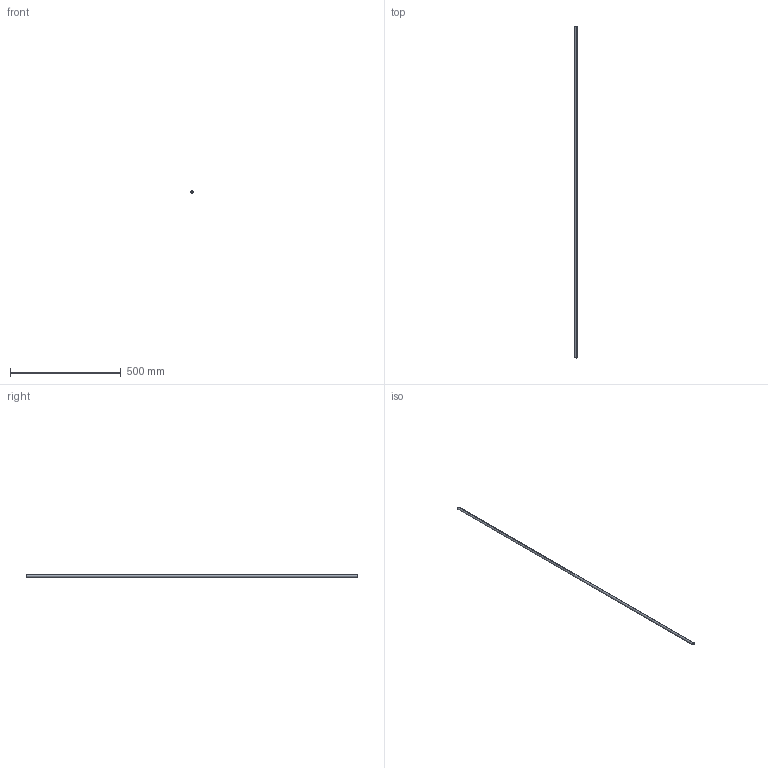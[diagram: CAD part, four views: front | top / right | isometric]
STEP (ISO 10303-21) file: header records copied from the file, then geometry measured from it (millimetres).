
FILE_DESCRIPTION (( 'STEP AP214' ), '1' );
FILE_NAME ('PST12-1500.STEP', '2019-10-29T09:00:11', ( '微软用户' ), ( '微软中国' ), 'SwSTEP 2.0', 'SolidWorks 2016', '' );
FILE_SCHEMA (( 'AUTOMOTIVE_DESIGN' ));
Length unit declared in the file: millimetre
Products named in the file (1): PST12-1500
Bounding box: 12 x 1500 x 12 mm (x, y, z)
Volume: 32232.7 mm3; surface area: 107485.4 mm2
Topology: 1 solids, 1 shells, 6 faces, 12 edges, 8 vertices
Faces by surface type: cylinder 4, plane 2
Entity records: 202 total; most frequent: DIRECTION 34, CARTESIAN_POINT 27, ORIENTED_EDGE 24, AXIS2_PLACEMENT_3D 15, EDGE_CURVE 12, EDGE_LOOP 8, VERTEX_POINT 8, CIRCLE 8
